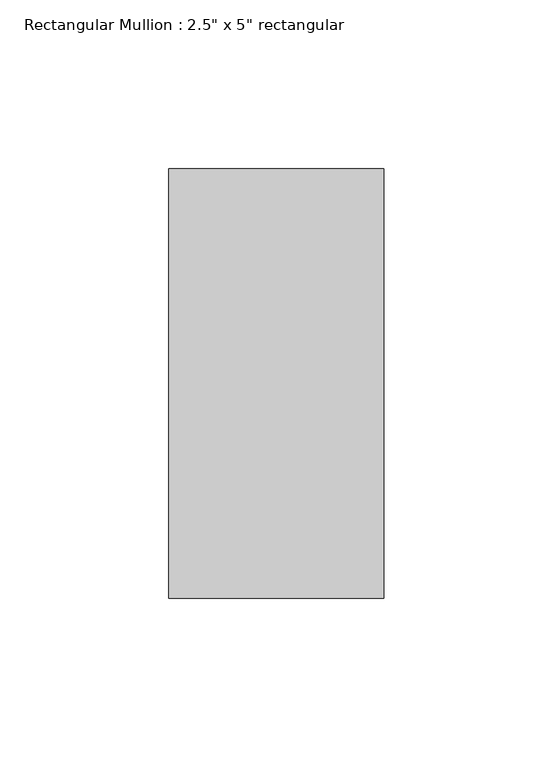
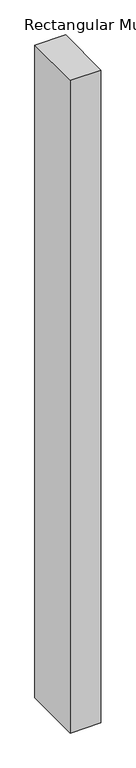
"""IFC4 building model written with IfcOpenShell, lengths in millimetres: member geometry."""

from ifc_helpers import new_model, si_unit, frame, origin, place, context, project, spatial, polyline, outline, extrude, source, transform, mapped, element, save


def member_68903c03(model_context):
    return source(origin(), model_context, "Body", "SweptSolid", [
        extrude(outline(polyline([(0.0, 63.5), (0.0, -63.5), (-63.5, -63.5), (-63.5, 63.5), (0.0, 63.5)])), frame((0.0, 0.0, -1432.94975), z_axis=(0.0, 0.0, 1.0), x_axis=(1.0, 0.0, 0.0)), (0.0, 0.0, 1.0), 1432.94975),
    ])


if __name__ == "__main__":
    model = new_model("IFC4")
    model_context = context("Model", 3, world=origin())
    ifc_project = project(units=[si_unit("LENGTHUNIT", "METRE", prefix="MILLI")], contexts=[model_context])
    site = spatial("IfcSite", under=ifc_project)
    building = spatial("IfcBuilding", under=site)
    placement = place(None, origin())
    member_shape = member_68903c03(model_context)
    element("IfcMember", 1, ObjectType="Rectangular Mullion : 2.5\" x 5\" rectangular", at=placement, inside=building, context=model_context, shape_type="MappedRepresentation", body=[
        mapped(member_shape, transform((0.0, 0.0, 0.0), x_axis=(1.0, 0.0, 0.0), y_axis=(0.0, 1.0, 0.0), z_axis=(0.0, 0.0, 1.0))),
    ])
    save(model, "model.ifc")
